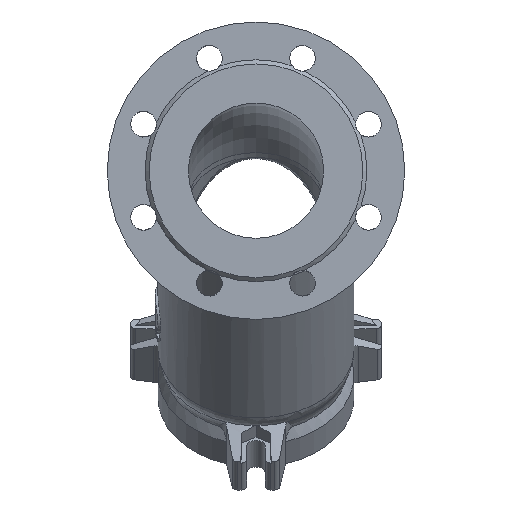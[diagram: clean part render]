
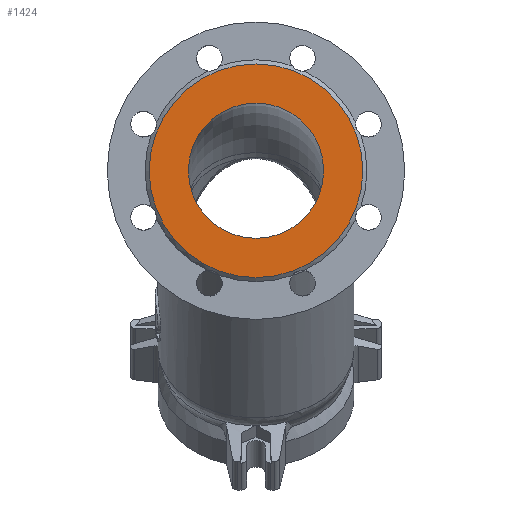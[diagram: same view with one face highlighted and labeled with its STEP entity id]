
A CAD part, left-side view. The second image highlights one B-rep face of the part: STEP entity #1424.
In plain terms, the highlighted planar face has unit normal (-1, 0, 0).
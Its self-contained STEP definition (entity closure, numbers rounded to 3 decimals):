
#1424=ADVANCED_FACE('',(#5668,#5670),#5672,.F.);
#5668=FACE_BOUND('',#5669,.T.);
#5669=EDGE_LOOP('',(#7350));
#5670=FACE_BOUND('',#5671,.T.);
#5671=EDGE_LOOP('',(#7351));
#5672=PLANE('',#5673);
#5673=AXIS2_PLACEMENT_3D('',#5674,#5675,#5676);
#5674=CARTESIAN_POINT('',(0.,0.,0.));
#5675=DIRECTION('',(1.,0.,0.));
#5676=DIRECTION('',(0.,1.,0.));
#7350=ORIENTED_EDGE('',*,*,#7934,.F.);
#7351=ORIENTED_EDGE('',*,*,#7945,.T.);
#7934=EDGE_CURVE('',#8727,#8727,#8728,.T.);
#7945=EDGE_CURVE('',#8749,#8749,#8750,.T.);
#8727=VERTEX_POINT('',#15550);
#8728=CIRCLE('',#15551,79.);
#8749=VERTEX_POINT('',#15605);
#8750=CIRCLE('',#15606,50.);
#15550=CARTESIAN_POINT('',(0.,0.,79.));
#15551=AXIS2_PLACEMENT_3D('',#15552,#15553,#15554);
#15552=CARTESIAN_POINT('',(0.,0.,0.));
#15553=DIRECTION('',(1.,0.,0.));
#15554=DIRECTION('',(0.,0.,1.));
#15605=CARTESIAN_POINT('',(0.,-50.,0.));
#15606=AXIS2_PLACEMENT_3D('',#15607,#15608,#15609);
#15607=CARTESIAN_POINT('',(0.,0.,0.));
#15608=DIRECTION('',(1.,0.,0.));
#15609=DIRECTION('',(0.,-1.,0.));
